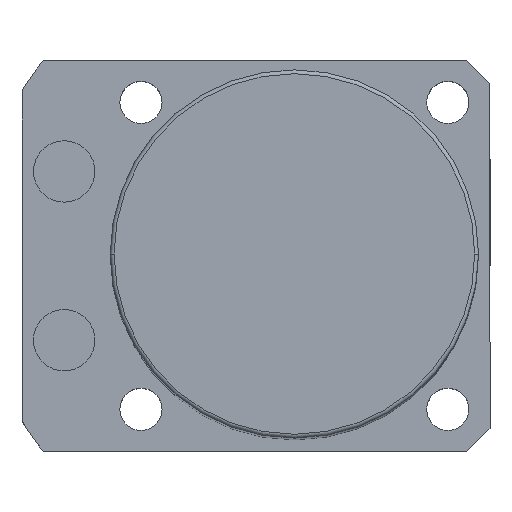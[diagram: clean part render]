
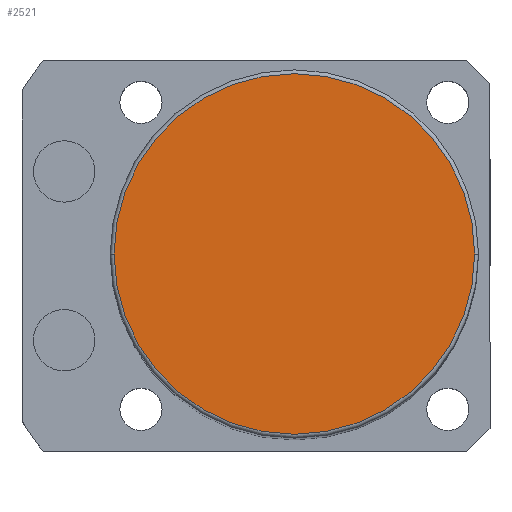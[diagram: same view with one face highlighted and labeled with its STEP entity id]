
A CAD part, top view. The second image highlights one B-rep face of the part: STEP entity #2521.
In plain terms, the highlighted planar face has unit normal (0, 0, 1).
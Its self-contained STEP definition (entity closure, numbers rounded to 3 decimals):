
#167 = AXIS2_PLACEMENT_3D ( 'NONE', #396, #1466, #1889 ) ;
#287 = EDGE_CURVE ( 'NONE', #2722, #2106, #1082, .T. ) ;
#396 = CARTESIAN_POINT ( 'NONE',  ( 0., 0., 151. ) ) ;
#408 = CARTESIAN_POINT ( 'NONE',  ( 0., 0., 151. ) ) ;
#426 = DIRECTION ( 'NONE',  ( 0., 0., 1. ) ) ;
#469 = ORIENTED_EDGE ( 'NONE', *, *, #287, .T. ) ;
#650 = PLANE ( 'NONE',  #2057 ) ;
#820 = DIRECTION ( 'NONE',  ( 1., 0., 0. ) ) ;
#953 = CIRCLE ( 'NONE', #2235, 23.5 ) ;
#1065 = DIRECTION ( 'NONE',  ( 0., 0., 1. ) ) ;
#1082 = CIRCLE ( 'NONE', #167, 23.5 ) ;
#1113 = CARTESIAN_POINT ( 'NONE',  ( -23.5, 0., 151. ) ) ;
#1250 = FACE_OUTER_BOUND ( 'NONE', #1338, .T. ) ;
#1338 = EDGE_LOOP ( 'NONE', ( #469, #1908 ) ) ;
#1466 = DIRECTION ( 'NONE',  ( 0., 0., 1. ) ) ;
#1542 = CARTESIAN_POINT ( 'NONE',  ( 23.5, 0., 151. ) ) ;
#1717 = CARTESIAN_POINT ( 'NONE',  ( 0., 0., 151. ) ) ;
#1737 = DIRECTION ( 'NONE',  ( 1., 0., 0. ) ) ;
#1793 = EDGE_CURVE ( 'NONE', #2106, #2722, #953, .T. ) ;
#1889 = DIRECTION ( 'NONE',  ( 1., 0., 0. ) ) ;
#1908 = ORIENTED_EDGE ( 'NONE', *, *, #1793, .T. ) ;
#2057 = AXIS2_PLACEMENT_3D ( 'NONE', #408, #1065, #820 ) ;
#2106 = VERTEX_POINT ( 'NONE', #1113 ) ;
#2235 = AXIS2_PLACEMENT_3D ( 'NONE', #1717, #426, #1737 ) ;
#2521 = ADVANCED_FACE ( 'NONE', ( #1250 ), #650, .T. ) ;
#2722 = VERTEX_POINT ( 'NONE', #1542 ) ;
